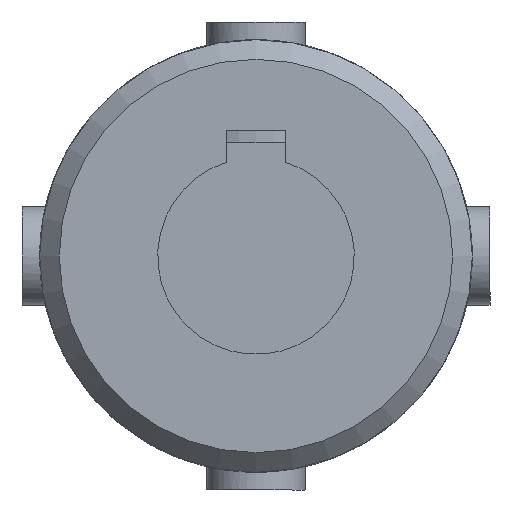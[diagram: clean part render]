
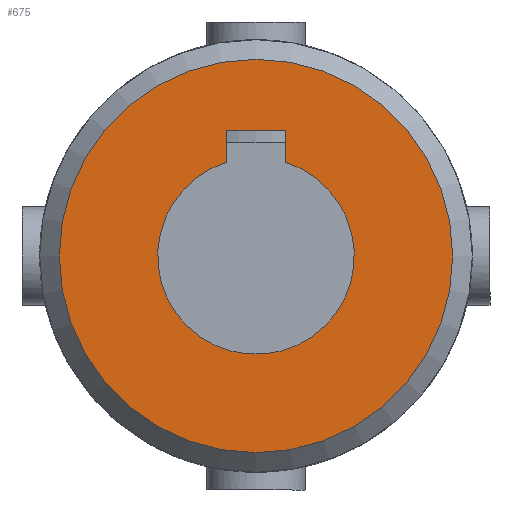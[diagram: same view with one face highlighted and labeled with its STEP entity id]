
A CAD part, left-side view. The second image highlights one B-rep face of the part: STEP entity #675.
In plain terms, the highlighted planar face has unit normal (-1, 0, 0) as drawn and (0, -1, 0) by its records, which use the part's own axes.
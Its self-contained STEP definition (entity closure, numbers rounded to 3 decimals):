
#81=LINE('',#1022,#114);
#85=LINE('',#1049,#118);
#87=LINE('',#1057,#120);
#114=VECTOR('',#840,1.63);
#118=VECTOR('',#852,3.);
#120=VECTOR('',#856,1.63);
#146=PLANE('',#738);
#170=FACE_BOUND('',#251,.T.);
#195=FACE_OUTER_BOUND('',#250,.T.);
#250=EDGE_LOOP('',(#551));
#251=EDGE_LOOP('',(#552,#553,#554,#555));
#283=CIRCLE('',#725,5.);
#289=CIRCLE('',#736,10.);
#321=VERTEX_POINT('',#1019);
#322=VERTEX_POINT('',#1021);
#325=VERTEX_POINT('',#1031);
#327=VERTEX_POINT('',#1047);
#336=VERTEX_POINT('',#1146);
#392=EDGE_CURVE('',#322,#321,#81,.T.);
#396=EDGE_CURVE('',#325,#322,#283,.T.);
#400=EDGE_CURVE('',#321,#327,#85,.T.);
#403=EDGE_CURVE('',#327,#325,#87,.T.);
#413=EDGE_CURVE('',#336,#336,#289,.T.);
#551=ORIENTED_EDGE('',*,*,#413,.F.);
#552=ORIENTED_EDGE('',*,*,#392,.T.);
#553=ORIENTED_EDGE('',*,*,#400,.T.);
#554=ORIENTED_EDGE('',*,*,#403,.T.);
#555=ORIENTED_EDGE('',*,*,#396,.T.);
#675=ADVANCED_FACE('',(#195,#170),#146,.F.);
#725=AXIS2_PLACEMENT_3D('',#1032,#846,#847);
#736=AXIS2_PLACEMENT_3D('',#1147,#873,#874);
#738=AXIS2_PLACEMENT_3D('',#1315,#881,#882);
#840=DIRECTION('',(0.,0.,-1.));
#846=DIRECTION('center_axis',(0.,1.,0.));
#847=DIRECTION('ref_axis',(0.3,0.,-0.954));
#852=DIRECTION('',(-1.,0.,0.));
#856=DIRECTION('',(0.,0.,1.));
#873=DIRECTION('center_axis',(0.,1.,0.));
#874=DIRECTION('ref_axis',(1.,0.,0.));
#881=DIRECTION('center_axis',(0.,1.,0.));
#882=DIRECTION('ref_axis',(0.,0.,1.));
#1019=CARTESIAN_POINT('',(1.5,-29.5,-6.4));
#1021=CARTESIAN_POINT('',(1.5,-29.5,-4.77));
#1022=CARTESIAN_POINT('',(1.5,-29.5,-2.385));
#1031=CARTESIAN_POINT('',(-1.5,-29.5,-4.77));
#1032=CARTESIAN_POINT('Origin',(0.,-29.5,0.));
#1047=CARTESIAN_POINT('',(-1.5,-29.5,-6.4));
#1049=CARTESIAN_POINT('',(0.75,-29.5,-6.4));
#1057=CARTESIAN_POINT('',(-1.5,-29.5,-3.2));
#1146=CARTESIAN_POINT('',(-10.,-29.5,0.));
#1147=CARTESIAN_POINT('Origin',(0.,-29.5,0.));
#1315=CARTESIAN_POINT('Origin',(0.,-29.5,0.));
